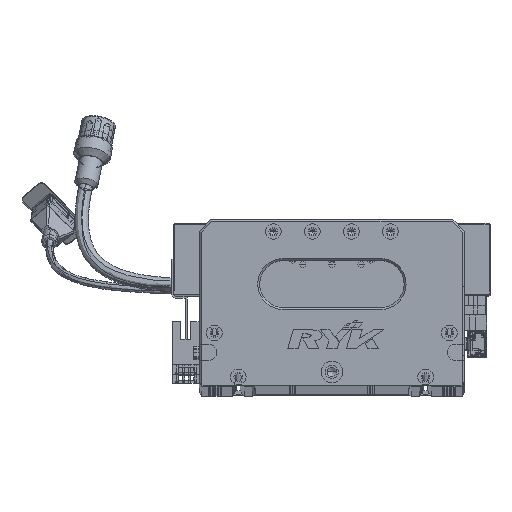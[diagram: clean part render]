
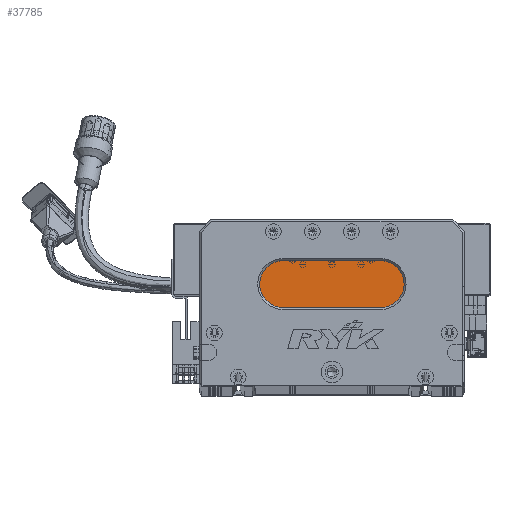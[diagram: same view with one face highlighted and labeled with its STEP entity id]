
A CAD part, top view. The second image highlights one B-rep face of the part: STEP entity #37785.
In plain terms, the highlighted planar face has unit normal (0, 0, 1) as drawn and (0, 0, -1) by its records, which use the part's own axes.
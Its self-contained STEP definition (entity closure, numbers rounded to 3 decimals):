
#4333 = CARTESIAN_POINT ( 'NONE',  ( 43., 52., 13. ) ) ;
#4614 = LINE ( 'NONE', #50225, #62460 ) ;
#5103 = ORIENTED_EDGE ( 'NONE', *, *, #49851, .T. ) ;
#5625 = CARTESIAN_POINT ( 'NONE',  ( 43., 64., 13. ) ) ;
#19773 = LINE ( 'NONE', #73238, #31619 ) ;
#26112 = CARTESIAN_POINT ( 'NONE',  ( 43., 40., 13. ) ) ;
#26498 = DIRECTION ( 'NONE',  ( 0., 0., -1. ) ) ;
#31619 = VECTOR ( 'NONE', #61317, 1000. ) ;
#37785 = ADVANCED_FACE ( 'NONE', ( #102980 ), #132310, .T. ) ;
#38695 = DIRECTION ( 'NONE',  ( 0., 0., -1. ) ) ;
#40812 = VERTEX_POINT ( 'NONE', #26112 ) ;
#44256 = DIRECTION ( 'NONE',  ( 0., 0., -1. ) ) ;
#46060 = AXIS2_PLACEMENT_3D ( 'NONE', #4333, #71378, #48522 ) ;
#47875 = CARTESIAN_POINT ( 'NONE',  ( 93., 52., 13. ) ) ;
#48206 = DIRECTION ( 'NONE',  ( -1., 0., 0. ) ) ;
#48522 = DIRECTION ( 'NONE',  ( -1., 0., 0. ) ) ;
#49851 = EDGE_CURVE ( 'NONE', #126182, #68823, #110626, .T. ) ;
#50225 = CARTESIAN_POINT ( 'NONE',  ( 93., 64., 13. ) ) ;
#51189 = DIRECTION ( 'NONE',  ( 1., 0., 0. ) ) ;
#61317 = DIRECTION ( 'NONE',  ( -1., 0., 0. ) ) ;
#62460 = VECTOR ( 'NONE', #51189, 1000. ) ;
#63816 = CIRCLE ( 'NONE', #107759, 12. ) ;
#65241 = CARTESIAN_POINT ( 'NONE',  ( 93., 52., 13. ) ) ;
#68823 = VERTEX_POINT ( 'NONE', #5625 ) ;
#71378 = DIRECTION ( 'NONE',  ( 0., 0., -1. ) ) ;
#73238 = CARTESIAN_POINT ( 'NONE',  ( 93., 40., 13. ) ) ;
#73584 = EDGE_CURVE ( 'NONE', #40812, #126182, #74130, .T. ) ;
#74130 = CIRCLE ( 'NONE', #127789, 12. ) ;
#79282 = ORIENTED_EDGE ( 'NONE', *, *, #124877, .T. ) ;
#80734 = DIRECTION ( 'NONE',  ( -1., 0., 0. ) ) ;
#86639 = ORIENTED_EDGE ( 'NONE', *, *, #140766, .T. ) ;
#88054 = DIRECTION ( 'NONE',  ( -1., 0., 0. ) ) ;
#93076 = EDGE_LOOP ( 'NONE', ( #86639, #126446, #132602, #5103, #79282 ) ) ;
#99303 = VERTEX_POINT ( 'NONE', #105588 ) ;
#102980 = FACE_OUTER_BOUND ( 'NONE', #93076, .T. ) ;
#105588 = CARTESIAN_POINT ( 'NONE',  ( 93., 64., 13. ) ) ;
#107759 = AXIS2_PLACEMENT_3D ( 'NONE', #47875, #26498, #80734 ) ;
#110626 = CIRCLE ( 'NONE', #46060, 12. ) ;
#111605 = VERTEX_POINT ( 'NONE', #132993 ) ;
#113487 = CARTESIAN_POINT ( 'NONE',  ( 43., 52., 13. ) ) ;
#123061 = AXIS2_PLACEMENT_3D ( 'NONE', #65241, #44256, #88054 ) ;
#124877 = EDGE_CURVE ( 'NONE', #68823, #99303, #4614, .T. ) ;
#125429 = EDGE_CURVE ( 'NONE', #111605, #40812, #19773, .T. ) ;
#126182 = VERTEX_POINT ( 'NONE', #138221 ) ;
#126446 = ORIENTED_EDGE ( 'NONE', *, *, #125429, .T. ) ;
#127789 = AXIS2_PLACEMENT_3D ( 'NONE', #113487, #38695, #48206 ) ;
#132310 = PLANE ( 'NONE',  #123061 ) ;
#132602 = ORIENTED_EDGE ( 'NONE', *, *, #73584, .T. ) ;
#132993 = CARTESIAN_POINT ( 'NONE',  ( 93., 40., 13. ) ) ;
#138221 = CARTESIAN_POINT ( 'NONE',  ( 31., 52., 13. ) ) ;
#140766 = EDGE_CURVE ( 'NONE', #99303, #111605, #63816, .T. ) ;
